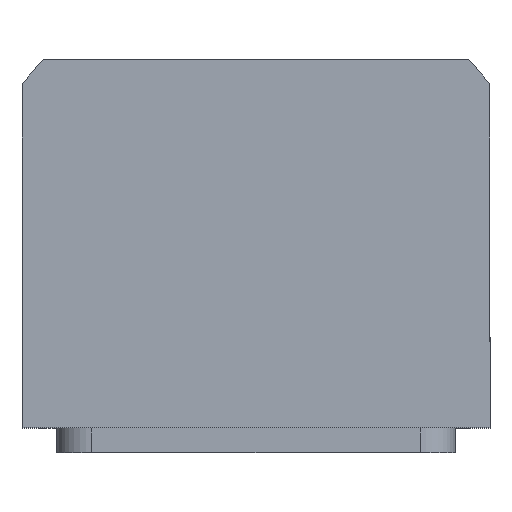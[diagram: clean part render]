
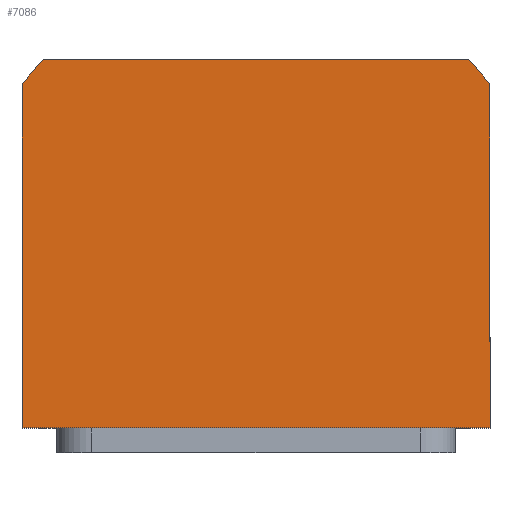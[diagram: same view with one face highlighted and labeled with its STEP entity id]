
A CAD part, top view. The second image highlights one B-rep face of the part: STEP entity #7086.
In plain terms, the highlighted planar face has unit normal (0, 0, 1).
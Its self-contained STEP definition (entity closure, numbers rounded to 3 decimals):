
#177 = CIRCLE ( 'NONE', #8309, 58.5 ) ;
#448 = FACE_OUTER_BOUND ( 'NONE', #1838, .T. ) ;
#567 = VECTOR ( 'NONE', #5152, 1000. ) ;
#643 = VERTEX_POINT ( 'NONE', #5641 ) ;
#752 = CARTESIAN_POINT ( 'NONE',  ( -47., -34., 35. ) ) ;
#1389 = EDGE_CURVE ( 'NONE', #8548, #6934, #8510, .T. ) ;
#1838 = EDGE_LOOP ( 'NONE', ( #4420, #6637, #9350, #3765, #3962, #10653 ) ) ;
#1845 = CARTESIAN_POINT ( 'NONE',  ( -47., 34.832, 35. ) ) ;
#2052 = EDGE_CURVE ( 'NONE', #2801, #3633, #10800, .T. ) ;
#2155 = EDGE_CURVE ( 'NONE', #3633, #643, #5475, .T. ) ;
#2336 = VECTOR ( 'NONE', #6981, 1000. ) ;
#2701 = CARTESIAN_POINT ( 'NONE',  ( 47., 34.832, 35. ) ) ;
#2801 = VERTEX_POINT ( 'NONE', #1845 ) ;
#2951 = CARTESIAN_POINT ( 'NONE',  ( -47., -34., 35. ) ) ;
#2998 = VECTOR ( 'NONE', #5727, 1000. ) ;
#3272 = LINE ( 'NONE', #11130, #567 ) ;
#3633 = VERTEX_POINT ( 'NONE', #2951 ) ;
#3765 = ORIENTED_EDGE ( 'NONE', *, *, #1389, .T. ) ;
#3776 = DIRECTION ( 'NONE',  ( 1., 0., 0. ) ) ;
#3962 = ORIENTED_EDGE ( 'NONE', *, *, #10116, .T. ) ;
#4420 = ORIENTED_EDGE ( 'NONE', *, *, #2155, .T. ) ;
#4430 = AXIS2_PLACEMENT_3D ( 'NONE', #10405, #5278, #7889 ) ;
#4512 = DIRECTION ( 'NONE',  ( 0., 0., 1. ) ) ;
#4641 = CARTESIAN_POINT ( 'NONE',  ( -42.688, 40., 35. ) ) ;
#4642 = CIRCLE ( 'NONE', #8874, 58.5 ) ;
#4754 = CARTESIAN_POINT ( 'NONE',  ( 42.688, 40., 35. ) ) ;
#5152 = DIRECTION ( 'NONE',  ( 0., 1., 0. ) ) ;
#5278 = DIRECTION ( 'NONE',  ( 0., 0., 1. ) ) ;
#5475 = LINE ( 'NONE', #9021, #2998 ) ;
#5641 = CARTESIAN_POINT ( 'NONE',  ( 47., -34., 35. ) ) ;
#5727 = DIRECTION ( 'NONE',  ( 1., 0., 0. ) ) ;
#6391 = CARTESIAN_POINT ( 'NONE',  ( 0., 0., 35. ) ) ;
#6637 = ORIENTED_EDGE ( 'NONE', *, *, #9303, .T. ) ;
#6934 = VERTEX_POINT ( 'NONE', #9424 ) ;
#6981 = DIRECTION ( 'NONE',  ( 0., -1., 0. ) ) ;
#7086 = ADVANCED_FACE ( 'NONE', ( #448 ), #8801, .T. ) ;
#7408 = VECTOR ( 'NONE', #9002, 1000. ) ;
#7889 = DIRECTION ( 'NONE',  ( 1., 0., 0. ) ) ;
#8309 = AXIS2_PLACEMENT_3D ( 'NONE', #10386, #11269, #8710 ) ;
#8510 = LINE ( 'NONE', #4641, #7408 ) ;
#8548 = VERTEX_POINT ( 'NONE', #4754 ) ;
#8649 = EDGE_CURVE ( 'NONE', #11163, #8548, #177, .T. ) ;
#8710 = DIRECTION ( 'NONE',  ( 1., 0., 0. ) ) ;
#8801 = PLANE ( 'NONE',  #4430 ) ;
#8874 = AXIS2_PLACEMENT_3D ( 'NONE', #6391, #4512, #3776 ) ;
#9002 = DIRECTION ( 'NONE',  ( -1., 0., 0. ) ) ;
#9021 = CARTESIAN_POINT ( 'NONE',  ( 47., -34., 35. ) ) ;
#9303 = EDGE_CURVE ( 'NONE', #643, #11163, #3272, .T. ) ;
#9350 = ORIENTED_EDGE ( 'NONE', *, *, #8649, .T. ) ;
#9424 = CARTESIAN_POINT ( 'NONE',  ( -42.688, 40., 35. ) ) ;
#10116 = EDGE_CURVE ( 'NONE', #6934, #2801, #4642, .T. ) ;
#10386 = CARTESIAN_POINT ( 'NONE',  ( 0., 0., 35. ) ) ;
#10405 = CARTESIAN_POINT ( 'NONE',  ( 0., 0., 35. ) ) ;
#10653 = ORIENTED_EDGE ( 'NONE', *, *, #2052, .T. ) ;
#10800 = LINE ( 'NONE', #752, #2336 ) ;
#11130 = CARTESIAN_POINT ( 'NONE',  ( 47., 34.832, 35. ) ) ;
#11163 = VERTEX_POINT ( 'NONE', #2701 ) ;
#11269 = DIRECTION ( 'NONE',  ( 0., 0., 1. ) ) ;
